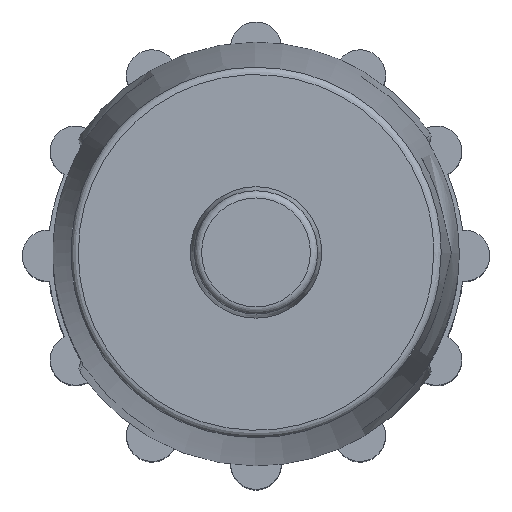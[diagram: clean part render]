
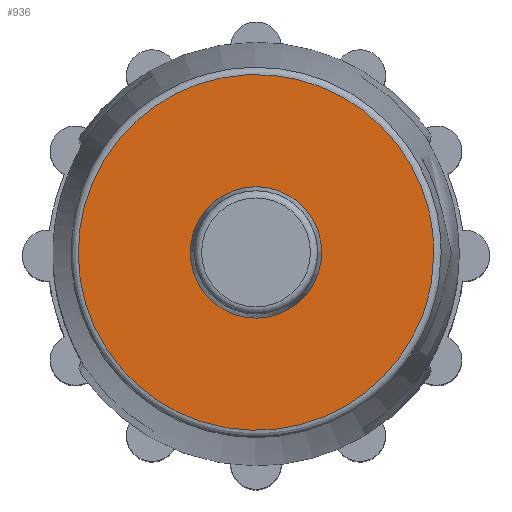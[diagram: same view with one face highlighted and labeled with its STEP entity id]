
A CAD part, top view. The second image highlights one B-rep face of the part: STEP entity #936.
In plain terms, the highlighted planar face has unit normal (0, 0, 1).
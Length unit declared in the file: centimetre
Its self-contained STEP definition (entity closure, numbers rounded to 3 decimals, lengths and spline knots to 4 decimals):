
#297=B_SPLINE_CURVE_WITH_KNOTS('',3,(#3868,#3869,#3870,#3871,#3872,#3873,
#3874,#3875,#3876,#3877,#3878,#3879,#3880,#3881,#3882,#3883,#3884,#3885,
#3886,#3887,#3888,#3889,#3890,#3891),.UNSPECIFIED.,.T.,.U.,(4,2,2,2,2,2,
2,2,2,2,2,4),(0.,0.3018,0.7847,1.3753,2.0403,
2.8554,3.7424,4.1969,4.6514,5.2051,
5.8549,6.2832),.UNSPECIFIED.);
#396=VERTEX_POINT('',#3719);
#398=VERTEX_POINT('',#3867);
#506=EDGE_CURVE('',#396,#396,#1242,.T.);
#508=EDGE_CURVE('',#398,#398,#297,.T.);
#740=ORIENTED_EDGE('',*,*,#506,.T.);
#741=ORIENTED_EDGE('',*,*,#508,.F.);
#831=EDGE_LOOP('',(#740));
#832=EDGE_LOOP('',(#741));
#886=FACE_BOUND('',#831,.T.);
#887=FACE_BOUND('',#832,.T.);
#936=ADVANCED_FACE('',(#886,#887),#2024,.T.);
#1242=CIRCLE('',#1902,0.45);
#1902=AXIS2_PLACEMENT_3D('',#3718,#2358,#2359);
#1907=AXIS2_PLACEMENT_3D('',#4099,#2368,$);
#2024=PLANE('',#1907);
#2358=DIRECTION('',(0.,0.,-1.));
#2359=DIRECTION('',(0.45,0.,0.));
#2368=DIRECTION('',(0.,0.,1.));
#3718=CARTESIAN_POINT('',(0.,0.,18.6039));
#3719=CARTESIAN_POINT('',(0.45,0.,18.6039));
#3867=CARTESIAN_POINT('',(1.2178,0.,18.6039));
#3868=CARTESIAN_POINT('',(1.2178,0.,18.6039));
#3869=CARTESIAN_POINT('',(1.2178,-0.1218,18.6039));
#3870=CARTESIAN_POINT('',(1.1991,-0.2454,18.6039));
#3871=CARTESIAN_POINT('',(1.1043,-0.5496,18.6039));
#3872=CARTESIAN_POINT('',(0.9993,-0.7228,18.6039));
#3873=CARTESIAN_POINT('',(0.693,-1.0294,18.6039));
#3874=CARTESIAN_POINT('',(0.4721,-1.1481,18.6039));
#3875=CARTESIAN_POINT('',(-0.0297,-1.2473,18.6039));
#3876=CARTESIAN_POINT('',(-0.3105,-1.2082,18.6039));
#3877=CARTESIAN_POINT('',(-0.8467,-0.9359,18.6039));
#3878=CARTESIAN_POINT('',(-1.0751,-0.6613,18.6039));
#3879=CARTESIAN_POINT('',(-1.2702,0.0034,18.6039));
#3880=CARTESIAN_POINT('',(-1.2082,0.392,18.6039));
#3881=CARTESIAN_POINT('',(-0.8989,0.8422,18.6039));
#3882=CARTESIAN_POINT('',(-0.7595,0.9697,18.6039));
#3883=CARTESIAN_POINT('',(-0.438,1.1512,18.6039));
#3884=CARTESIAN_POINT('',(-0.2558,1.2048,18.6039));
#3885=CARTESIAN_POINT('',(0.151,1.229,18.6039));
#3886=CARTESIAN_POINT('',(0.3792,1.1791,18.6039));
#3887=CARTESIAN_POINT('',(0.8105,0.9467,18.6039));
#3888=CARTESIAN_POINT('',(1.0001,0.7428,18.6039));
#3889=CARTESIAN_POINT('',(1.1802,0.3465,18.6039));
#3890=CARTESIAN_POINT('',(1.2178,0.1728,18.6039));
#3891=CARTESIAN_POINT('',(1.2178,0.,18.6039));
#4099=CARTESIAN_POINT('',(0.6324,0.,18.6039));
